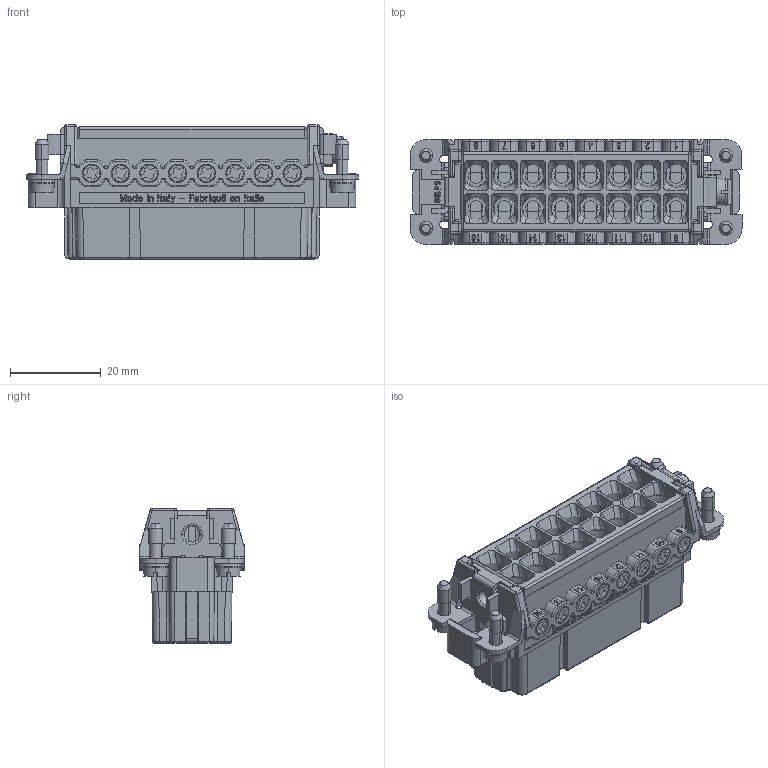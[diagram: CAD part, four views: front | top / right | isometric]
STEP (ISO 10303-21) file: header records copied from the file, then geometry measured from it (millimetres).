
FILE_DESCRIPTION (( 'STEP AP214' ), '1' );
FILE_NAME ('CDAF16.STEP', '2016-08-02T15:57:49', ( 'richard gronsfeld' ), ( '' ), 'SwSTEP 2.0', 'SolidWorks 2007', '' );
FILE_SCHEMA (( 'AUTOMOTIVE_DESIGN' ));
Length unit declared in the file: millimetre
Products named in the file (2): CDAF_16_Défaut; CDAF16
Assembly tree (1 placements, depth 2):
  CDAF16
    CDAF_16_Défaut
Bounding box: 73 x 23 x 29.6 mm (x, y, z)
Volume: 25497.8 mm3; surface area: 23355.6 mm2
Topology: 1 solids, 10 shells, 5473 faces, 15079 edges, 9832 vertices
Faces by surface type: plane 4289, cylinder 670, bspline 391, cone 91, torus 32
Entity records: 241357 total; most frequent: CARTESIAN_POINT 43888, ORIENTED_EDGE 30124, DIRECTION 26114, EDGE_CURVE 15062, VECTOR 12586, LINE 12586, VERTEX_POINT 9832, AXIS2_PLACEMENT_3D 6764
